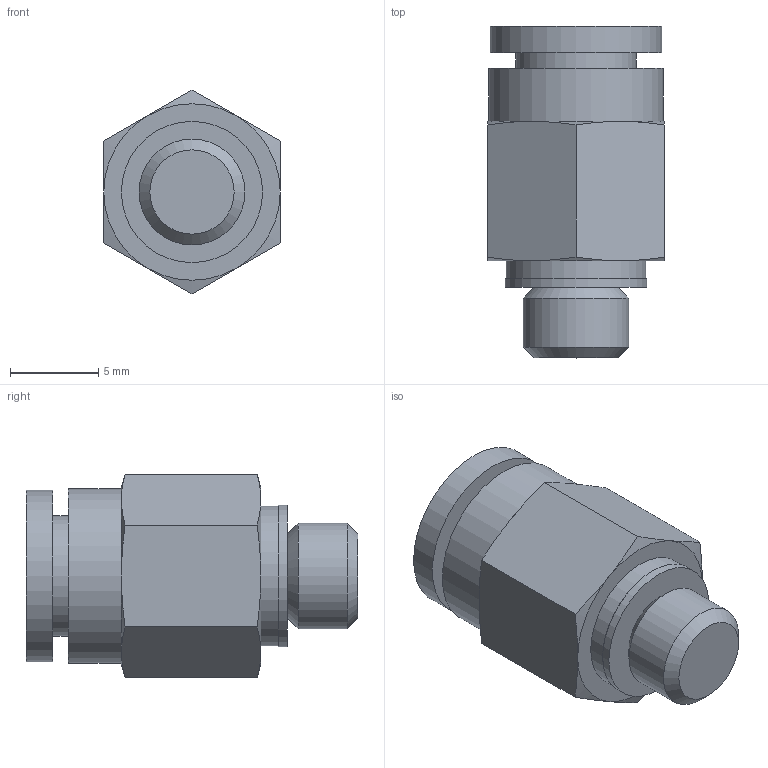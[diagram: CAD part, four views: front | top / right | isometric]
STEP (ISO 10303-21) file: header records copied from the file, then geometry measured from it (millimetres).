
FILE_DESCRIPTION(/* description */ ('STEP AP214'),/* implementation_level */ '2;1');
FILE_NAME(/* name */ 'KQ2H06-M6A',/* time_stamp */ '2023-03-09T07:18:52+01:00',/* author */ ('License CC BY-ND 4.0'),/* organization */ ('CADENAS'),/* preprocessor_version */ 'ST-DEVELOPER v18.102',/* originating_system */ 'PARTsolutions',/* authorisation */ ' ');
FILE_SCHEMA (('AUTOMOTIVE_DESIGN {1 0 10303 214 3 1 1}'));
Length unit declared in the file: millimetre
Products named in the file (1): KQ2H06-M6A
Bounding box: 10 x 18.8 x 11.55 mm (x, y, z)
Volume: 862.2 mm3; surface area: 1048.1 mm2
Topology: 1 solids, 1 shells, 36 faces, 67 edges, 40 vertices
Faces by surface type: plane 15, cone 14, cylinder 7
Full cylindrical faces by diameter (mm): 6 x2, 6.8 x1, 7.9 x1, 8 x1, 9.7 x1, 9.9 x1
Entity records: 896 total; most frequent: CARTESIAN_POINT 207, DIRECTION 136, ORIENTED_EDGE 116, AXIS2_PLACEMENT_3D 65, EDGE_CURVE 58, EDGE_LOOP 52, FACE_BOUND 52, VERTEX_POINT 40
